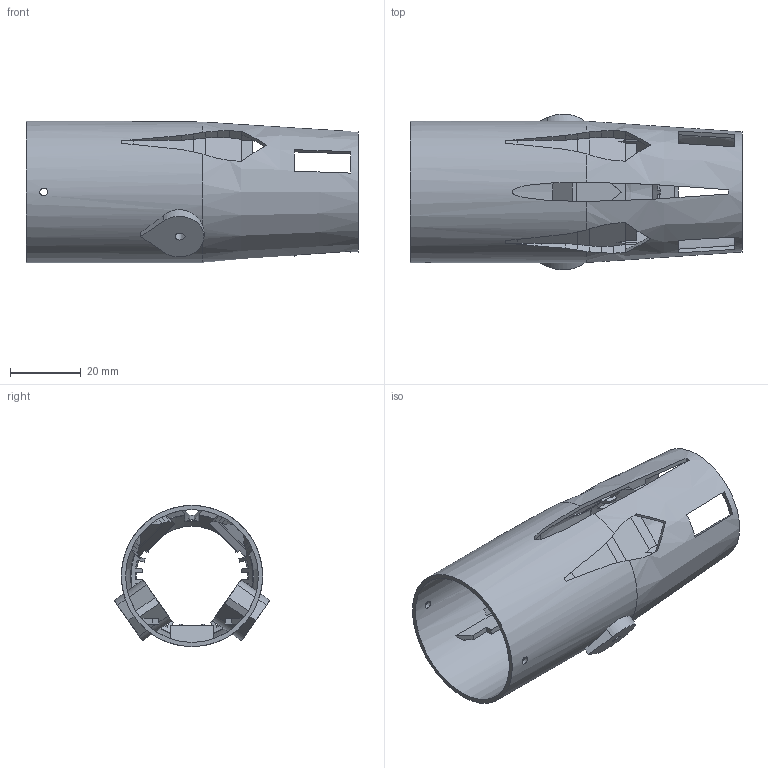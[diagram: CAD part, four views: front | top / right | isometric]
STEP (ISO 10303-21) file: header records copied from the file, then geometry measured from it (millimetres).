
FILE_DESCRIPTION(('Open CASCADE Model'),'2;1');
FILE_NAME('Open CASCADE Shape Model','2026-10-04T21:26:21',('Author'),( 'Open CASCADE'),'Open CASCADE STEP processor 7.9','Open CASCADE 7.9' ,'Unknown');
FILE_SCHEMA(('AUTOMOTIVE_DESIGN { 1 0 10303 214 1 1 1 1 }'));
Length unit declared in the file: millimetre
Products named in the file (1): Open CASCADE STEP translator 7.9 13
Bounding box: 94 x 44.07 x 40 mm (x, y, z)
Volume: 17317.5 mm3; surface area: 24250.9 mm2
Topology: 1 solids, 1 shells, 332 faces, 991 edges, 655 vertices
Faces by surface type: plane 226, cylinder 56, bspline 42, cone 8
Full cylindrical faces by diameter (mm): 2.2 x2, 37.6 x1, 40 x1
Entity records: 30484 total; most frequent: CARTESIAN_POINT 13038, DIRECTION 2539, ORIENTED_EDGE 1982, PCURVE 1982, DEFINITIONAL_REPRESENTATION 1982, LINE 1310, VECTOR 1310, B_SPLINE_CURVE_WITH_KNOTS 1229
